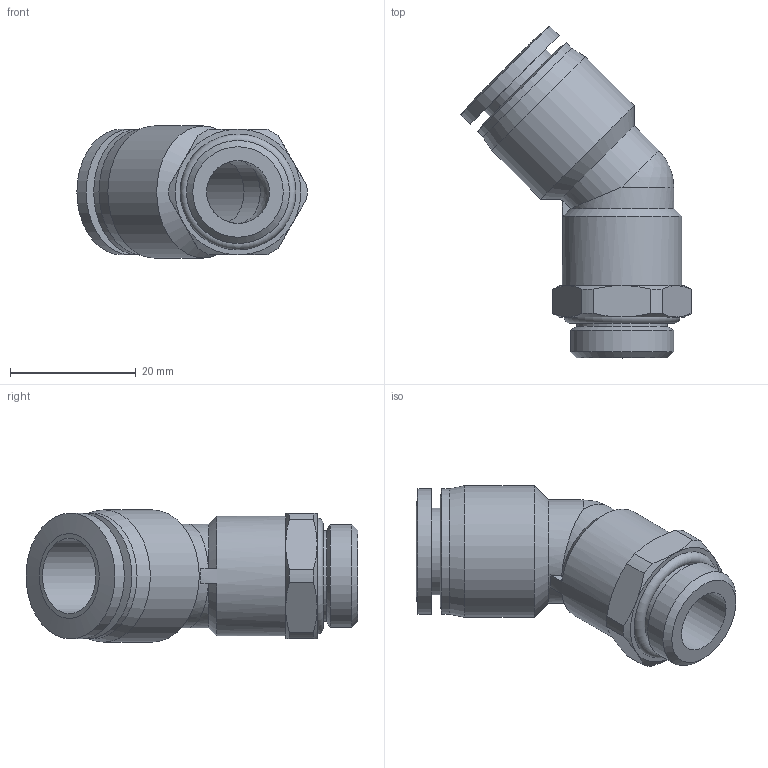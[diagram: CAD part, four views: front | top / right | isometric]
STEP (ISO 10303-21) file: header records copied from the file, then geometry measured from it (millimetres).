
FILE_DESCRIPTION(/* description */ (''),/* implementation_level */ '2;1');
FILE_NAME(/* name */ 'D:\CDC pneumatics\inventor\PL 45\G 나사\PL 45 12-G03.stp',/* time_stamp */ '2015-11-16T16:47:28+09:00',/* author */ ('DIAMOND'),/* organization */ (''),/* preprocessor_version */ 'ST-DEVELOPER v15.6',/* originating_system */ 'Autodesk Inventor 2015',/* authorisation */ '');
FILE_SCHEMA (('AUTOMOTIVE_DESIGN { 1 0 10303 214 3 1 1 }'));
Length unit declared in the file: millimetre
Products named in the file (1): PL 45 12-G03
Bounding box: 36.63 x 52.8 x 21 mm (x, y, z)
Volume: 10011.6 mm3; surface area: 6025.8 mm2
Topology: 1 solids, 1 shells, 57 faces, 124 edges, 74 vertices
Faces by surface type: cone 21, cylinder 18, plane 15, sphere 2, torus 1
Full cylindrical faces by diameter (mm): 10 x2, 12 x1, 13.8 x1, 14.4 x1, 16.4 x1, 16.5 x2, 19 x1, 20 x2, 21 x1
Entity records: 1429 total; most frequent: CARTESIAN_POINT 278, DIRECTION 253, ORIENTED_EDGE 206, AXIS2_PLACEMENT_3D 117, EDGE_CURVE 102, EDGE_LOOP 82, VERTEX_POINT 70, FACE_OUTER_BOUND 57
